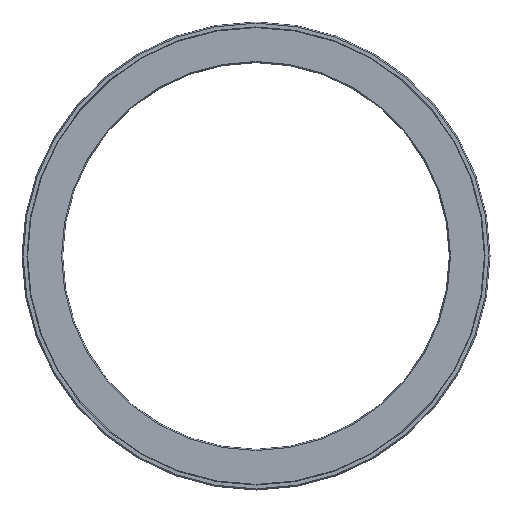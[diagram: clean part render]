
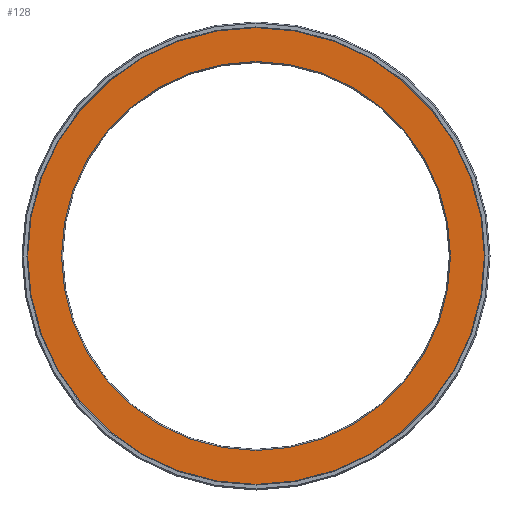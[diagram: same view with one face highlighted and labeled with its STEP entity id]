
A CAD part, left-side view. The second image highlights one B-rep face of the part: STEP entity #128.
In plain terms, the highlighted planar face has unit normal (-1, 0, 0).
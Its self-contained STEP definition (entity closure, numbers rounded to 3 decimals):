
#112=PLANE('',#329);
#128=ADVANCED_FACE('',(#163,#164),#112,.T.);
#163=FACE_BOUND('',#199,.T.);
#164=FACE_BOUND('',#200,.T.);
#199=EDGE_LOOP('',(#235));
#200=EDGE_LOOP('',(#236));
#235=ORIENTED_EDGE('',*,*,#276,.T.);
#236=ORIENTED_EDGE('',*,*,#275,.F.);
#257=VERTEX_POINT('',#454);
#258=VERTEX_POINT('',#457);
#275=EDGE_CURVE('',#257,#257,#293,.T.);
#276=EDGE_CURVE('',#258,#258,#294,.T.);
#293=CIRCLE('',#326,112.25);
#294=CIRCLE('',#328,95.577);
#326=AXIS2_PLACEMENT_3D('',#453,#394,#395);
#328=AXIS2_PLACEMENT_3D('',#456,#398,#399);
#329=AXIS2_PLACEMENT_3D('',#458,#400,#401);
#394=DIRECTION('',(1.,0.,0.));
#395=DIRECTION('',(0.,0.,-1.));
#398=DIRECTION('',(1.,0.,0.));
#399=DIRECTION('',(0.,0.,1.));
#400=DIRECTION('',(-1.,0.,0.));
#401=DIRECTION('',(0.,0.,1.));
#453=CARTESIAN_POINT('',(0.,0.,0.));
#454=CARTESIAN_POINT('',(0.,0.,-112.25));
#456=CARTESIAN_POINT('',(0.,0.,0.));
#457=CARTESIAN_POINT('',(0.,0.,95.577));
#458=CARTESIAN_POINT('',(0.,112.25,0.));
